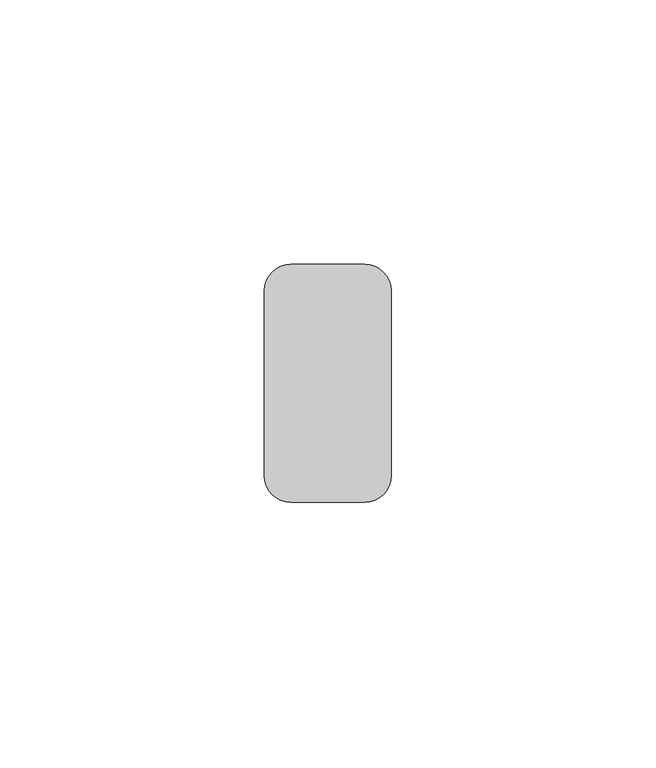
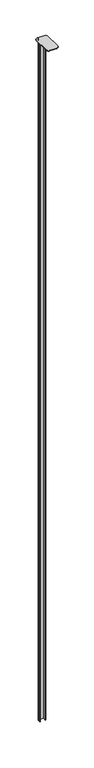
"""IFC4 building model written with IfcOpenShell, lengths in millimetres: proxy geometry, durlum_U1300 : durlum_U1300."""

from ifc_helpers import new_model, si_unit, point, frame, frame_2d, origin, place, context, project, spatial, polyline, circle_curve, trimmed, segment, composite_curve, outline, extrude, source, transform, mapped, element, save


def generic_models_0f372576(model_context):
    return source(origin(), model_context, "Body", "SweptSolid", [
        extrude(outline(composite_curve([segment(trimmed(circle_curve(frame_2d((7.0, -5.0)), 5.0), [point((7.0, 0.0))], [point((12.0, -5.0))], False, "CARTESIAN"), True, "CONTINUOUS"), segment(polyline([(12.0, -5.0), (12.0, -40.0)]), True, "CONTINUOUS"), segment(trimmed(circle_curve(frame_2d((7.0, -40.0)), 5.0), [point((12.0, -40.0))], [point((7.0, -45.0))], False, "CARTESIAN"), True, "CONTINUOUS"), segment(polyline([(7.0, -45.0), (-7.0, -45.0)]), True, "CONTINUOUS"), segment(trimmed(circle_curve(frame_2d((-7.0, -40.0)), 5.0), [point((-7.0, -45.0))], [point((-12.0, -40.0))], False, "CARTESIAN"), True, "CONTINUOUS"), segment(polyline([(-12.0, -40.0), (-12.0, -5.0)]), True, "CONTINUOUS"), segment(trimmed(circle_curve(frame_2d((-7.0, -5.0)), 5.0), [point((-12.0, -5.0))], [point((-7.0, 0.0))], False, "CARTESIAN"), True, "CONTINUOUS"), segment(polyline([(-7.0, 0.0), (7.0, 0.0)]), True, "CONTINUOUS")], self_intersect=False)), frame((0.0, 0.0, 2208.1344914), z_axis=(0.0, 0.0, 1.0), x_axis=(1.0, 0.0, 0.0)), (0.0, 0.0, 1.0), 1.0),
        extrude(outline(composite_curve([segment(trimmed(circle_curve(frame_2d((-4.25, -2.0)), 2.0), [point((-6.25, -2.0))], [point((-4.25, 0.0))], False, "CARTESIAN"), True, "CONTINUOUS"), segment(polyline([(-4.25, 0.0), (4.25, 0.0)]), True, "CONTINUOUS"), segment(trimmed(circle_curve(frame_2d((4.25, -2.0)), 2.0), [point((4.25, 0.0))], [point((6.25, -2.0))], False, "CARTESIAN"), True, "CONTINUOUS"), segment(polyline([(6.25, -2.0), (6.25, -8.0), (5.25, -8.0), (5.25, -2.0)]), True, "CONTINUOUS"), segment(trimmed(circle_curve(frame_2d((4.25, -2.0)), 1.0), [point((5.25, -2.0))], [point((4.25, -1.0))], True, "CARTESIAN"), True, "CONTINUOUS"), segment(polyline([(4.25, -1.0), (-4.25, -1.0)]), True, "CONTINUOUS"), segment(trimmed(circle_curve(frame_2d((-4.25, -2.0)), 1.0), [point((-4.25, -1.0))], [point((-5.25, -2.0))], True, "CARTESIAN"), True, "CONTINUOUS"), segment(polyline([(-5.25, -2.0), (-5.25, -8.0), (-6.25, -8.0), (-6.25, -2.0)]), True, "CONTINUOUS")], self_intersect=False)), frame((0.0, 0.0, 716.5875318), z_axis=(0.0, 0.0, 1.0), x_axis=(1.0, 0.0, 0.0)), (0.0, 0.0, 1.0), 1491.5469596),
    ])


if __name__ == "__main__":
    model = new_model("IFC4")
    model_context = context("Model", 3, world=origin())
    ifc_project = project(units=[si_unit("LENGTHUNIT", "METRE", prefix="MILLI")], contexts=[model_context])
    site = spatial("IfcSite", under=ifc_project)
    building = spatial("IfcBuilding", under=site)
    placement = place(None, origin())
    generic_models_shape = generic_models_0f372576(model_context)
    element("IfcBuildingElementProxy", 1, Name="durlum_U1300 : durlum_U1300", ObjectType="durlum_U1300 : durlum_U1300", at=placement, inside=building, context=model_context, shape_type="MappedRepresentation", body=[
        mapped(generic_models_shape, transform((0.0, 0.0, 0.0), x_axis=(1.0, 0.0, 0.0), y_axis=(0.0, 1.0, 0.0), z_axis=(0.0, 0.0, 1.0))),
    ])
    save(model, "model.ifc")
